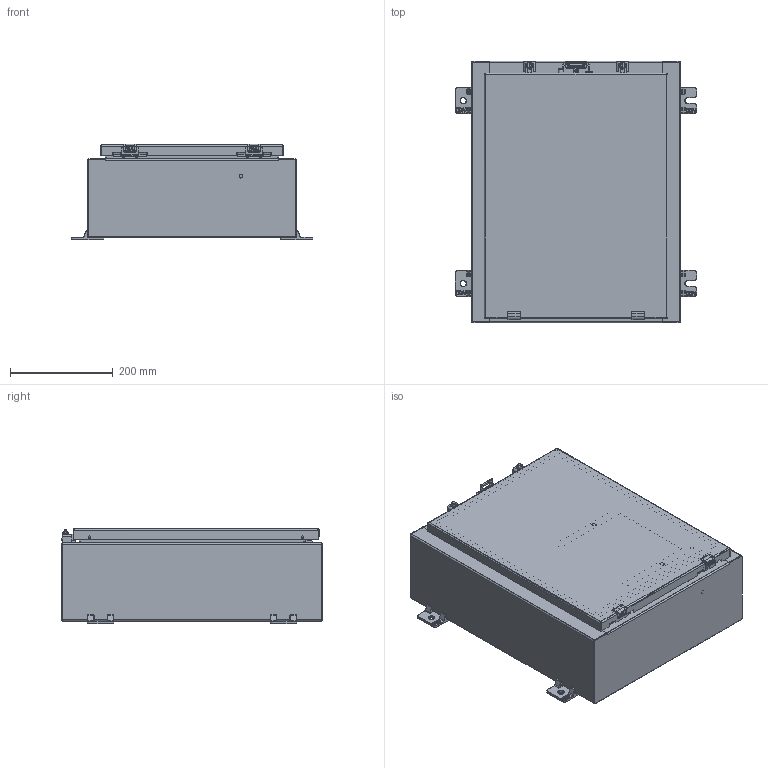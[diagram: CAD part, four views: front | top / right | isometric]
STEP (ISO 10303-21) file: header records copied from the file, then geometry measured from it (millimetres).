
FILE_DESCRIPTION((''),'2;1');
FILE_NAME('MODEL-310_ASM','2024-10-02T12:51:14',('richards'),('SAGINAW CONTROL & ENGINEERING'),'CREO PARAMETRIC BY PTC INC, 2021284','CREO PARAMETRIC BY PTC INC, 2021284','');
FILE_SCHEMA(('AUTOMOTIVE_DESIGN { 1 0 10303 214 1 1 1 1 }'));
Length unit declared in the file: inch
Products named in the file (35): MODEL-310-BDY; MODEL-310-RS; MODEL-310-LS; MODEL-310-DR; 100837; 100882; 111541; MODEL-310-DOOR-GASKET; 126391; 126391_ASM; 126393; 102483; 101226; 101376; 102140; 115117; MODEL-310-DOOR-ASSY_ASM; 128630; 100059; 128630_ASM; 100921; 128631; 128631_ASM; 101651; 121452; 120132_BASE; 120132_CLAMP; 120132_SCREW; 120132_SPRING; 120132_ASM; 120133; SUBPANEL; 100904; SUBPANEL-SUBASSEMBLY_ASM; MODEL-310_ASM
Assembly tree (65 placements, depth 4):
  MODEL-310_ASM
    MODEL-310-BDY
    MODEL-310-RS
    MODEL-310-LS
    MODEL-310-DOOR-ASSY_ASM
      MODEL-310-DR
      100837  x3
      100882  x2
      111541
      MODEL-310-DOOR-GASKET
      126391_ASM  x2
        126391
      126393  x2
      102483  x7
      101226  x2
      101376  x2
      102140  x2
      115117
    128630_ASM  x2
      128630
      100059
    100921  x4
    128631_ASM  x2
      128631
      100059
    100837
    101651  x4
    121452
    120132_ASM  x2
      120132_BASE
      120132_CLAMP
      120132_SCREW
      120132_SPRING
    100882  x3
    120133
    SUBPANEL-SUBASSEMBLY_ASM
      SUBPANEL
      100904  x4
Bounding box: 469.9 x 508 x 186.51 mm (x, y, z)
Volume: 2286086.7 mm3; surface area: 2078514.9 mm2
Topology: 65 solids, 65 shells, 4698 faces, 12019 edges, 7540 vertices
Faces by surface type: plane 1717, cylinder 1285, bspline 929, torus 526, cone 140, sphere 101
Entity records: 111919 total; most frequent: CARTESIAN_POINT 35375, ORIENTED_EDGE 11300, DIRECTION 10926, PRESENTATION_STYLE_ASSIGNMENT 5783, STYLED_ITEM 5783, CURVE_STYLE 5650, EDGE_CURVE 5650, AXIS2_PLACEMENT_3D 4075
